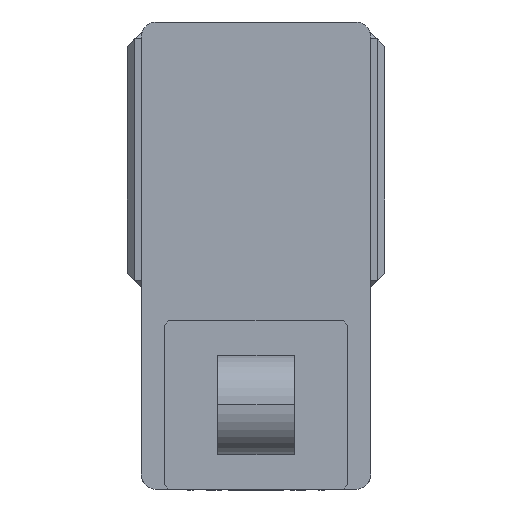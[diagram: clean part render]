
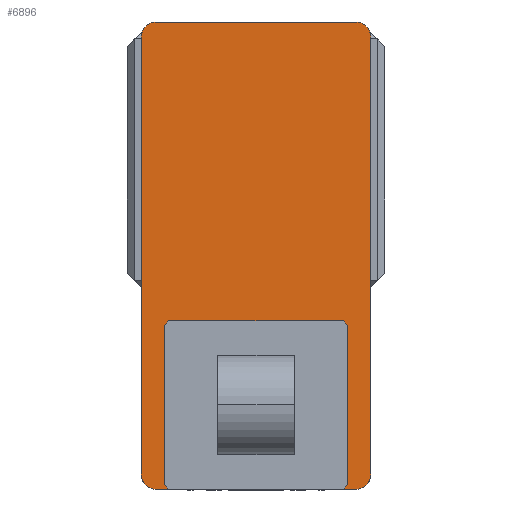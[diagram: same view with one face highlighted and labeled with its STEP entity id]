
A CAD part, left-side view. The second image highlights one B-rep face of the part: STEP entity #6896.
In plain terms, the highlighted planar face has unit normal (-1, 0, 0) as drawn and (0, 0, 1) by its records, which use the part's own axes.
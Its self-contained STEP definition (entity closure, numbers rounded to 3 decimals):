
#301 = CARTESIAN_POINT ( 'NONE',  ( 65., 152.5, 105. ) ) ;
#327 = CARTESIAN_POINT ( 'NONE',  ( 65., 142.5, 105. ) ) ;
#649 = VERTEX_POINT ( 'NONE', #5534 ) ;
#739 = AXIS2_PLACEMENT_3D ( 'NONE', #14146, #4647, #15737 ) ;
#1079 = CARTESIAN_POINT ( 'NONE',  ( -65., -142.5, 105. ) ) ;
#1686 = DIRECTION ( 'NONE',  ( 1., 0., 0. ) ) ;
#1721 = CARTESIAN_POINT ( 'NONE',  ( -65., -152.5, 105. ) ) ;
#1925 = DIRECTION ( 'NONE',  ( 1., 0., 0. ) ) ;
#1972 = PLANE ( 'NONE',  #15283 ) ;
#2351 = EDGE_CURVE ( 'NONE', #15697, #3008, #13573, .T. ) ;
#2479 = VERTEX_POINT ( 'NONE', #18075 ) ;
#2671 = DIRECTION ( 'NONE',  ( 1., 0., 0. ) ) ;
#3008 = VERTEX_POINT ( 'NONE', #301 ) ;
#3422 = CARTESIAN_POINT ( 'NONE',  ( -75., -152.5, 105. ) ) ;
#3495 = VERTEX_POINT ( 'NONE', #15766 ) ;
#3537 = CARTESIAN_POINT ( 'NONE',  ( 65., -152.5, 105. ) ) ;
#3563 = CARTESIAN_POINT ( 'NONE',  ( 75., 152.5, 105. ) ) ;
#3573 = CARTESIAN_POINT ( 'NONE',  ( 0., 0., 105. ) ) ;
#4027 = CIRCLE ( 'NONE', #9364, 10. ) ;
#4159 = LINE ( 'NONE', #3422, #15809 ) ;
#4647 = DIRECTION ( 'NONE',  ( 0., 0., 1. ) ) ;
#4660 = CARTESIAN_POINT ( 'NONE',  ( 75., -142.5, 105. ) ) ;
#4913 = VERTEX_POINT ( 'NONE', #4660 ) ;
#4981 = ORIENTED_EDGE ( 'NONE', *, *, #5151, .T. ) ;
#5151 = EDGE_CURVE ( 'NONE', #18384, #10263, #4159, .T. ) ;
#5165 = DIRECTION ( 'NONE',  ( 0., 0., 1. ) ) ;
#5255 = VECTOR ( 'NONE', #20233, 1000. ) ;
#5534 = CARTESIAN_POINT ( 'NONE',  ( -75., -142.5, 105. ) ) ;
#5947 = EDGE_CURVE ( 'NONE', #3008, #3495, #14742, .T. ) ;
#6101 = CARTESIAN_POINT ( 'NONE',  ( -75., 152.5, 105. ) ) ;
#6232 = ORIENTED_EDGE ( 'NONE', *, *, #8625, .T. ) ;
#6680 = AXIS2_PLACEMENT_3D ( 'NONE', #327, #11421, #1925 ) ;
#6896 = ADVANCED_FACE ( 'NONE', ( #17959 ), #1972, .T. ) ;
#8300 = DIRECTION ( 'NONE',  ( 0., 0., 1. ) ) ;
#8625 = EDGE_CURVE ( 'NONE', #2479, #649, #12683, .T. ) ;
#9154 = VECTOR ( 'NONE', #16240, 1000. ) ;
#9364 = AXIS2_PLACEMENT_3D ( 'NONE', #17785, #8300, #19367 ) ;
#9599 = AXIS2_PLACEMENT_3D ( 'NONE', #1079, #12181, #2671 ) ;
#10035 = VECTOR ( 'NONE', #20527, 1000. ) ;
#10191 = EDGE_CURVE ( 'NONE', #649, #18384, #18836, .T. ) ;
#10263 = VERTEX_POINT ( 'NONE', #3537 ) ;
#11421 = DIRECTION ( 'NONE',  ( 0., 0., 1. ) ) ;
#11564 = EDGE_CURVE ( 'NONE', #4913, #15697, #13840, .T. ) ;
#12157 = ORIENTED_EDGE ( 'NONE', *, *, #17637, .T. ) ;
#12181 = DIRECTION ( 'NONE',  ( 0., 0., 1. ) ) ;
#12683 = LINE ( 'NONE', #6101, #5255 ) ;
#12688 = ORIENTED_EDGE ( 'NONE', *, *, #5947, .T. ) ;
#12996 = EDGE_CURVE ( 'NONE', #10263, #4913, #4027, .T. ) ;
#13025 = ORIENTED_EDGE ( 'NONE', *, *, #2351, .T. ) ;
#13517 = CIRCLE ( 'NONE', #739, 10. ) ;
#13573 = CIRCLE ( 'NONE', #6680, 10. ) ;
#13840 = LINE ( 'NONE', #3563, #9154 ) ;
#14146 = CARTESIAN_POINT ( 'NONE',  ( -65., 142.5, 105. ) ) ;
#14158 = CARTESIAN_POINT ( 'NONE',  ( -75., 152.5, 105. ) ) ;
#14742 = LINE ( 'NONE', #14158, #10035 ) ;
#14828 = CARTESIAN_POINT ( 'NONE',  ( 75., 142.5, 105. ) ) ;
#15283 = AXIS2_PLACEMENT_3D ( 'NONE', #3573, #5165, #16255 ) ;
#15430 = ORIENTED_EDGE ( 'NONE', *, *, #10191, .T. ) ;
#15697 = VERTEX_POINT ( 'NONE', #14828 ) ;
#15737 = DIRECTION ( 'NONE',  ( 1., 0., 0. ) ) ;
#15766 = CARTESIAN_POINT ( 'NONE',  ( -65., 152.5, 105. ) ) ;
#15809 = VECTOR ( 'NONE', #1686, 1000. ) ;
#16240 = DIRECTION ( 'NONE',  ( 0., 1., 0. ) ) ;
#16254 = ORIENTED_EDGE ( 'NONE', *, *, #12996, .T. ) ;
#16255 = DIRECTION ( 'NONE',  ( 1., 0., 0. ) ) ;
#17637 = EDGE_CURVE ( 'NONE', #3495, #2479, #13517, .T. ) ;
#17785 = CARTESIAN_POINT ( 'NONE',  ( 65., -142.5, 105. ) ) ;
#17959 = FACE_OUTER_BOUND ( 'NONE', #18820, .T. ) ;
#18075 = CARTESIAN_POINT ( 'NONE',  ( -75., 142.5, 105. ) ) ;
#18097 = ORIENTED_EDGE ( 'NONE', *, *, #11564, .T. ) ;
#18384 = VERTEX_POINT ( 'NONE', #1721 ) ;
#18820 = EDGE_LOOP ( 'NONE', ( #4981, #16254, #18097, #13025, #12688, #12157, #6232, #15430 ) ) ;
#18836 = CIRCLE ( 'NONE', #9599, 10. ) ;
#19367 = DIRECTION ( 'NONE',  ( 1., 0., 0. ) ) ;
#20233 = DIRECTION ( 'NONE',  ( 0., -1., 0. ) ) ;
#20527 = DIRECTION ( 'NONE',  ( -1., 0., 0. ) ) ;
